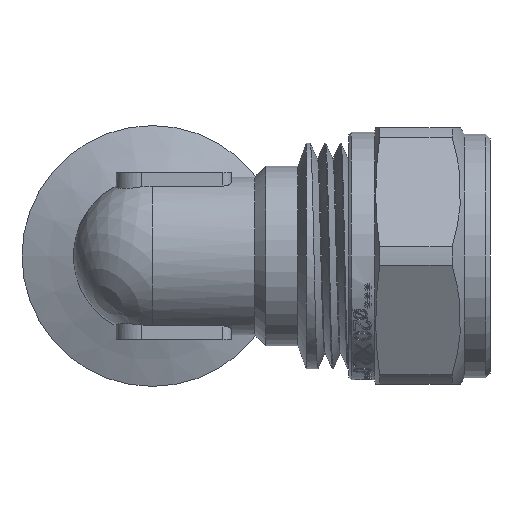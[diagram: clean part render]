
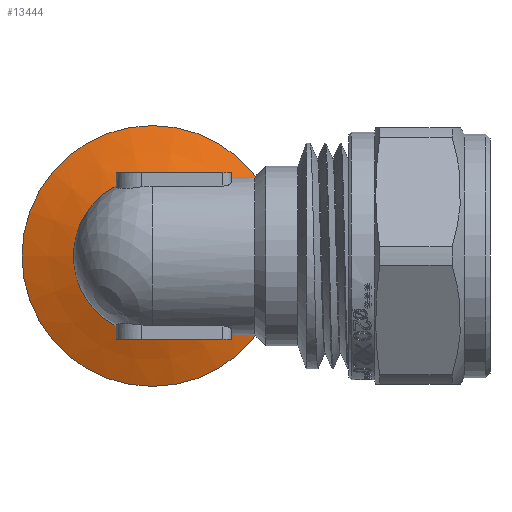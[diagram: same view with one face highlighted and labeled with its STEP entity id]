
A CAD part, front view. The second image highlights one B-rep face of the part: STEP entity #13444.
In plain terms, the highlighted conical face has half-angle 70 degrees and reference radius 12.236 mm.
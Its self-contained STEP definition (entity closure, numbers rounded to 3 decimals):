
#1601=LINE('',#20881,#2564);
#2564=VECTOR('',#15438,12.236);
#3268=CONICAL_SURFACE('',#14256,12.236,1.222);
#3496=FACE_OUTER_BOUND('',#4260,.T.);
#4260=EDGE_LOOP('',(#9652,#9653,#9654,#9655,#9656,#9657));
#4942=CIRCLE('',#14124,9.222);
#4943=CIRCLE('',#14125,9.222);
#4980=CIRCLE('',#14257,15.25);
#4981=CIRCLE('',#14258,15.25);
#5343=VERTEX_POINT('',#18813);
#5344=VERTEX_POINT('',#18814);
#5561=VERTEX_POINT('',#20877);
#5562=VERTEX_POINT('',#20878);
#6794=EDGE_CURVE('',#5343,#5344,#4942,.T.);
#6795=EDGE_CURVE('',#5344,#5343,#4943,.T.);
#7130=EDGE_CURVE('',#5561,#5562,#4980,.T.);
#7131=EDGE_CURVE('',#5562,#5561,#4981,.T.);
#7132=EDGE_CURVE('',#5562,#5344,#1601,.T.);
#9652=ORIENTED_EDGE('',*,*,#7130,.F.);
#9653=ORIENTED_EDGE('',*,*,#7131,.F.);
#9654=ORIENTED_EDGE('',*,*,#7132,.T.);
#9655=ORIENTED_EDGE('',*,*,#6795,.T.);
#9656=ORIENTED_EDGE('',*,*,#6794,.T.);
#9657=ORIENTED_EDGE('',*,*,#7132,.F.);
#13444=ADVANCED_FACE('',(#3496),#3268,.T.);
#14124=AXIS2_PLACEMENT_3D('',#18815,#14938,#14939);
#14125=AXIS2_PLACEMENT_3D('',#18816,#14940,#14941);
#14256=AXIS2_PLACEMENT_3D('',#20876,#15432,#15433);
#14257=AXIS2_PLACEMENT_3D('',#20879,#15434,#15435);
#14258=AXIS2_PLACEMENT_3D('',#20880,#15436,#15437);
#14938=DIRECTION('center_axis',(0.,1.,0.));
#14939=DIRECTION('ref_axis',(1.,0.,0.));
#14940=DIRECTION('center_axis',(0.,1.,0.));
#14941=DIRECTION('ref_axis',(1.,0.,0.));
#15432=DIRECTION('center_axis',(0.,1.,0.));
#15433=DIRECTION('ref_axis',(-1.,0.,0.));
#15434=DIRECTION('center_axis',(0.,1.,0.));
#15435=DIRECTION('ref_axis',(1.,0.,0.));
#15436=DIRECTION('center_axis',(0.,1.,0.));
#15437=DIRECTION('ref_axis',(1.,0.,0.));
#15438=DIRECTION('',(-0.94,-0.342,0.));
#18813=CARTESIAN_POINT('',(-9.222,11.806,0.));
#18814=CARTESIAN_POINT('',(9.222,11.806,0.));
#18815=CARTESIAN_POINT('Origin',(0.,11.806,
0.));
#18816=CARTESIAN_POINT('Origin',(0.,11.806,
0.));
#20876=CARTESIAN_POINT('Origin',(0.,12.903,
0.));
#20877=CARTESIAN_POINT('',(-15.25,14.,0.));
#20878=CARTESIAN_POINT('',(15.25,14.,0.));
#20879=CARTESIAN_POINT('Origin',(0.,14.,
0.));
#20880=CARTESIAN_POINT('Origin',(0.,14.,
0.));
#20881=CARTESIAN_POINT('',(12.236,12.903,0.));
